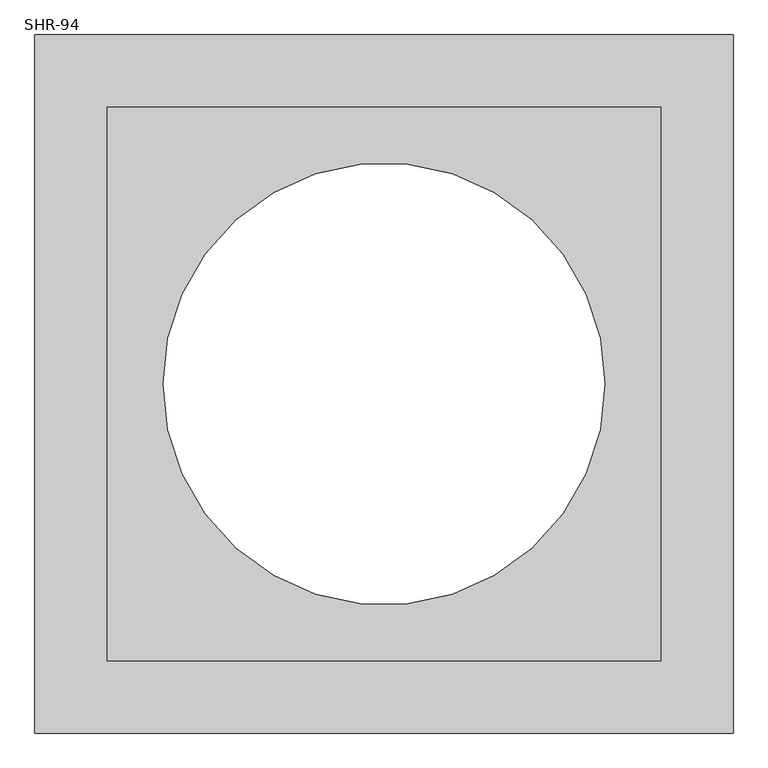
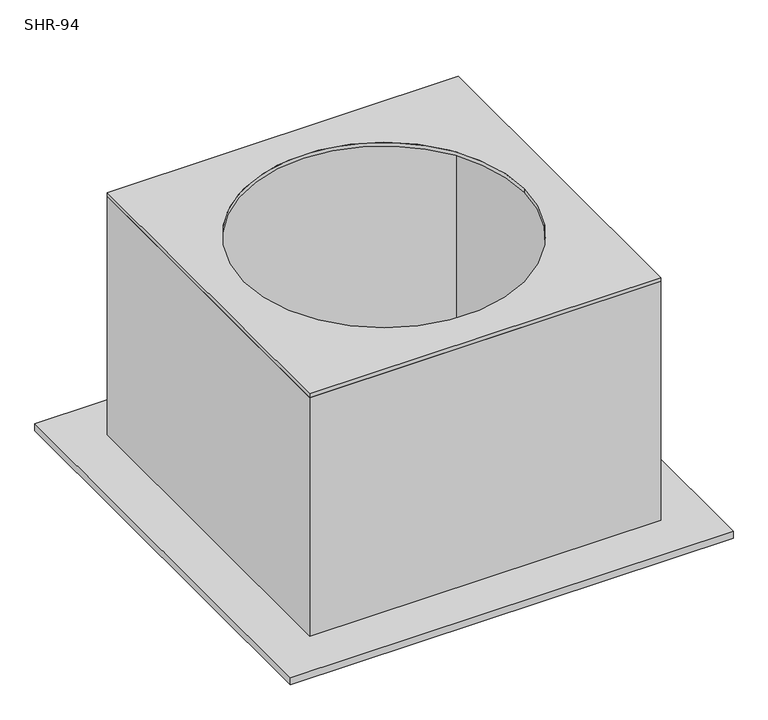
"""IFC4 building model written with IfcOpenShell, lengths in millimetres: damper geometry, СВ_Шумоглушитель_КрышныйПрямоугольный_30-100_SHR : SHR-94."""

from ifc_helpers import new_model, si_unit, point, frame, origin, origin_2d, place, context, project, spatial, polyline, circle_curve, trimmed, segment, composite_curve, outline, extrude, faceted_brep, source, transform, mapped, element, save


def shr_94_a10fe94a(model_context):
    return source(origin(), model_context, "Body", "SolidModel", [
        extrude(outline(polyline([(470.0, 470.0), (470.0, -470.0), (-470.0, -470.0), (-470.0, 470.0), (470.0, 470.0)]), holes=[composite_curve([segment(trimmed(circle_curve(origin_2d(), 375.0), [point((-375.0, 0.0))], [point((375.0, 0.0))], True, "CARTESIAN"), True, "CONTINUOUS"), segment(trimmed(circle_curve(origin_2d(), 375.0), [point((375.0, 0.0))], [point((-375.0, 0.0))], True, "CARTESIAN"), True, "CONTINUOUS")], self_intersect=False)]), frame((0.0, 0.0, -10.0), z_axis=(0.0, 0.0, 1.0), x_axis=(1.0, 0.0, 0.0)), (0.0, 0.0, 1.0), 10.0),
        faceted_brep([(-592.5, -592.5, -686.0), (592.5, -592.5, -686.0), (592.5, 592.5, -686.0), (-592.5, 592.5, -686.0), (-470.0, 470.0, -686.0), (470.0, 470.0, -686.0), (470.0, -470.0, -686.0), (-470.0, -470.0, -686.0), (-592.5, -592.5, -706.0), (-592.5, 592.5, -706.0), (592.5, 592.5, -706.0), (592.5, -592.5, -706.0), (-460.0, -460.0, -706.0), (460.0, -460.0, -706.0), (460.0, 460.0, -706.0), (-460.0, 460.0, -706.0), (470.0, 470.0, -10.0), (-470.0, 470.0, -10.0), (-470.0, -470.0, -10.0), (470.0, -470.0, -10.0), (-460.0, -460.0, -10.0), (-460.0, 460.0, -10.0), (460.0, 460.0, -10.0), (460.0, -460.0, -10.0)], [[[0, 1, 2, 3], [4, 5, 6, 7]], [[8, 9, 10, 11], [12, 13, 14, 15]], [[1, 0, 8, 11]], [[2, 1, 11, 10]], [[3, 2, 10, 9]], [[0, 3, 9, 8]], [[16, 17, 18, 19], [20, 21, 22, 23]], [[20, 23, 13, 12]], [[23, 22, 14, 13]], [[22, 21, 15, 14]], [[21, 20, 12, 15]], [[17, 16, 5, 4]], [[18, 17, 4, 7]], [[19, 18, 7, 6]], [[16, 19, 6, 5]]]),
    ])


if __name__ == "__main__":
    model = new_model("IFC4")
    model_context = context("Model", 3, world=origin())
    ifc_project = project(units=[si_unit("LENGTHUNIT", "METRE", prefix="MILLI")], contexts=[model_context])
    site = spatial("IfcSite", under=ifc_project)
    building = spatial("IfcBuilding", under=site)
    placement = place(None, origin())
    shr_94_shape = shr_94_a10fe94a(model_context)
    element("IfcDamper", 1, ObjectType="СВ_Шумоглушитель_КрышныйПрямоугольный_30-100_SHR : SHR-94", at=placement, inside=building, context=model_context, shape_type="MappedRepresentation", body=[
        mapped(shr_94_shape, transform((0.0, 0.0, 0.0), x_axis=(1.0, 0.0, 0.0), y_axis=(0.0, 1.0, 0.0), z_axis=(0.0, 0.0, 1.0))),
    ])
    save(model, "model.ifc")
